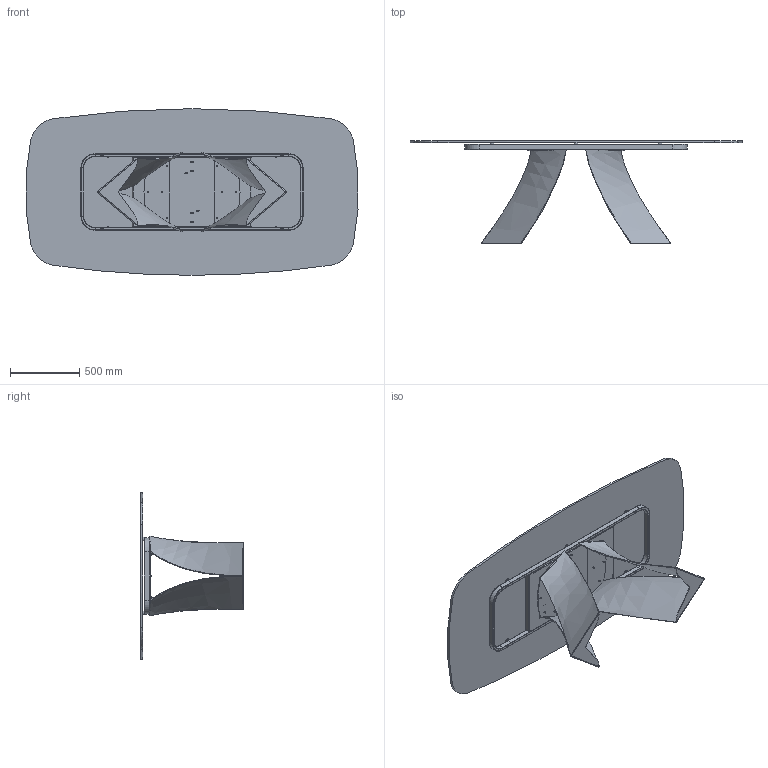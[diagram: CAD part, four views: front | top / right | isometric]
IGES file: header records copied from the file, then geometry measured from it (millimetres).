
Start section: SolidWorks IGES file using analytic representation for surfaces
Global section: file name: Y:\eforma\TECNICO\SOLIDWORKS\E-FORMA\1-TAVOLI\TWIST\02 parts\TW43G.IGS; native system: SolidWorks 2022; preprocessor: SolidWorks 2022; author: eforma.tech; date: 240807.143802; units: millimetre
Bounding box: 2391.62 x 740.37 x 1200 mm (x, y, z)
Volume: 50228651.2 mm3; surface area: 9817304.9 mm2
Topology: 56 solids, 56 shells, 1109 faces, 2585 edges, 1576 vertices
Faces by surface type: revolution 619, plane 424, bspline 66
